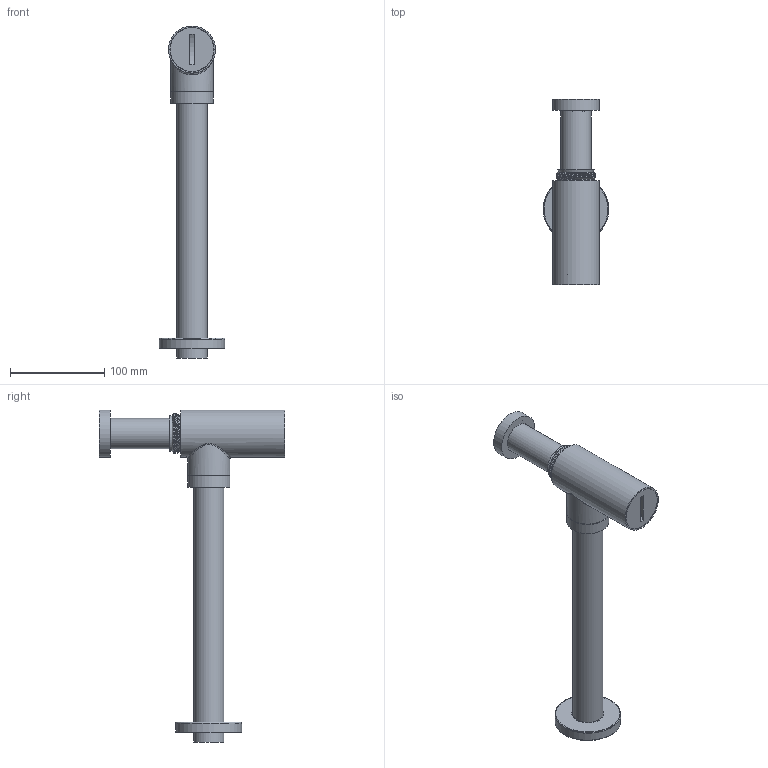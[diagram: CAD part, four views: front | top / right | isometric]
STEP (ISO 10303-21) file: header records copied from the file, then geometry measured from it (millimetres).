
FILE_DESCRIPTION(/* description */ (''),/* implementation_level */ '2;1');
FILE_NAME(/* name */ 'c:\worker\convert-fusion-apr-2019\tmp\job-1\24\output\files\a3032c36-2e3f-412c-856f-9cd7f06a1674\94b524a3-51cd-4caf-9bdc-d2c37e9c4fcd.stp',/* time_stamp */ '2019-05-13T11:40:38+00:00',/* author */ (''),/* organization */ (''),/* preprocessor_version */ 'ST-DEVELOPER v18',/* originating_system */ 'Autodesk Translation Framework v8.2.0.1029',/* authorisation */ '');
FILE_SCHEMA (('AUTOMOTIVE_DESIGN { 1 0 10303 214 3 1 1 }'));
Length unit declared in the file: millimetre
Products named in the file (1): !A186
Bounding box: 70 x 197.62 x 353 mm (x, y, z)
Volume: 87915.2 mm3; surface area: 182004.8 mm2
Topology: 10 solids, 11 shells, 187 faces, 552 edges, 410 vertices
Faces by surface type: cylinder 80, plane 64, cone 24, bspline 14, torus 5
Full cylindrical faces by diameter (mm): 27 x1, 31 x4, 31.24 x2, 31.6 x5, 32 x7, 32.5 x3, 33 x1, 34 x1, 34.5 x1, 38 x1, 38.5 x4, 39.5 x6, 40 x1, 41 x1, 41.8 x3, 42 x2, 43 x1, 43.5 x4, 44.5 x2, 45 x2, 46.5 x1, 47 x2, 50 x2, 69 x1, 70 x1
Entity records: 15381 total; most frequent: CARTESIAN_POINT 10365, ORIENTED_EDGE 1102, DIRECTION 991, EDGE_CURVE 552, AXIS2_PLACEMENT_3D 426, VERTEX_POINT 410, CIRCLE 250, EDGE_LOOP 233
